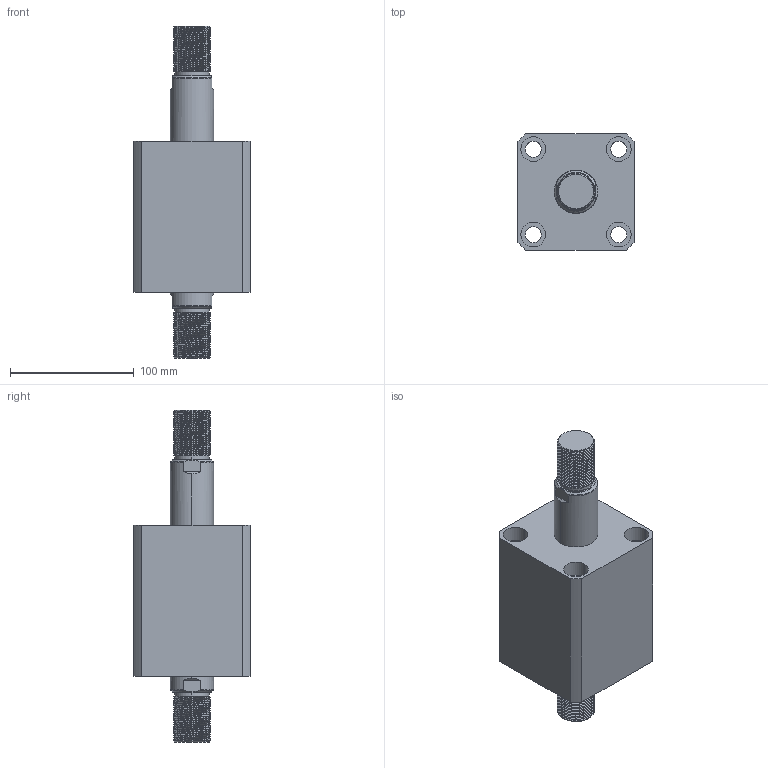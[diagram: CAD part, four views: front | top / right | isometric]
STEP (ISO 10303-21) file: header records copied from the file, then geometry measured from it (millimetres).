
FILE_DESCRIPTION (( 'STEP AP214' ), '1' );
FILE_NAME ('chtb-sw63x40w_asm.STEP', '2018-05-19T03:15:42', ( 'Windows' ), ( 'Microsoft' ), 'SwSTEP 2.0', 'SolidWorks 2015', '' );
FILE_SCHEMA (( 'AUTOMOTIVE_DESIGN' ));
Length unit declared in the file: millimetre
Products named in the file (4): CHTB-SW63X40WHSG; CHTB-SW63X40NBT; CHTB-63QG; chtb-sw63x40w_asm
Assembly tree (3 placements, depth 2):
  chtb-sw63x40w_asm
    CHTB-63QG
    CHTB-SW63X40NBT
    CHTB-SW63X40WHSG
Bounding box: 94 x 94 x 268 mm (x, y, z)
Volume: 1009040.7 mm3; surface area: 166362.3 mm2
Topology: 3 solids, 3 shells, 296 faces, 841 edges, 569 vertices
Faces by surface type: cylinder 206, plane 46, bspline 16, cone 16, torus 12
Entity records: 27380 total; most frequent: CARTESIAN_POINT 20442, ORIENTED_EDGE 1674, DIRECTION 1166, EDGE_CURVE 837, VERTEX_POINT 569, AXIS2_PLACEMENT_3D 453, EDGE_LOOP 334, ADVANCED_FACE 296
